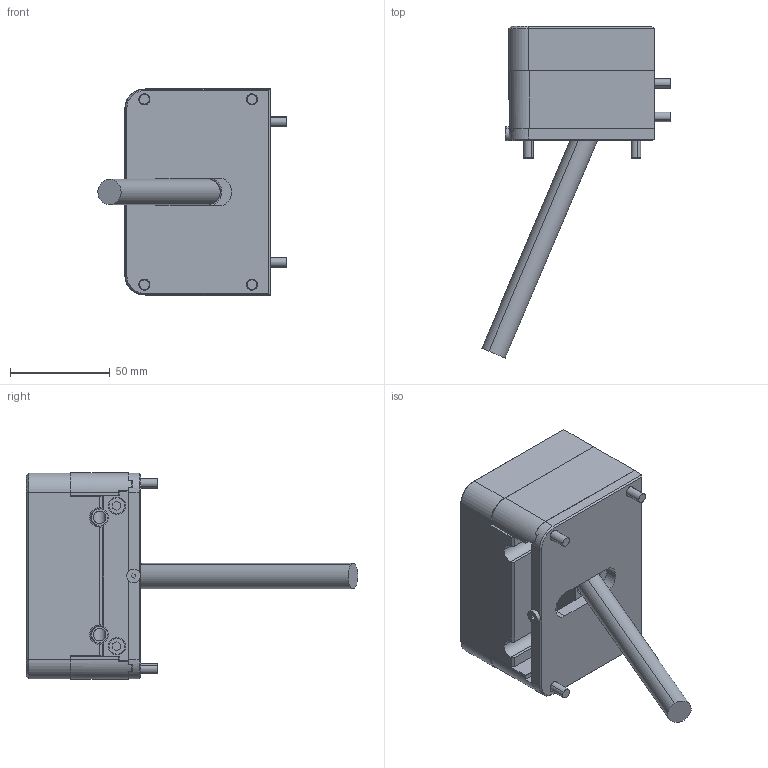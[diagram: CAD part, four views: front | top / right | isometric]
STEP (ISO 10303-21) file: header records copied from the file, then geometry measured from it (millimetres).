
FILE_DESCRIPTION (( 'STEP AP203' ), '1' );
FILE_NAME ('SL-40-50-HT.step', '2025-08-06T00:54:23', ( '' ), ( '' ), 'SwSTEP 2.0', 'SolidWorks 2023', '' );
FILE_SCHEMA (( 'CONFIG_CONTROL_DESIGN' ));
Length unit declared in the file: inch
Products named in the file (12): SL-40-50-HT; LHCS8-32L.25_LHCS8-32L.25; WPL-40102; BR06; GDG-30105R; GDG-30105L; SLD-40102; WDG-40102; SL-40102_WEDGE; SLK-8A-HT; SHCS10-32L1.50_SHCS10-32L1.50; CP-30
Assembly tree (18 placements, depth 3):
  SL-40-50-HT
    WPL-40102
    SLD-40102
    GDG-30105R
    GDG-30105L
    SLK-8A-HT
    SHCS10-32L1.50_SHCS10-32L1.50  x8
    LHCS8-32L.25_LHCS8-32L.25
    SL-40102_WEDGE
      WDG-40102
      CP-30
    BR06
Bounding box: 94.29 x 166.21 x 103.23 mm (x, y, z)
Volume: 390810.8 mm3; surface area: 102343.9 mm2
Topology: 18 solids, 18 shells, 612 faces, 1538 edges, 976 vertices
Faces by surface type: plane 333, cylinder 194, cone 81, bspline 4
Full cylindrical faces by diameter (mm): 2.184 x1, 2.185 x1, 6.35 x4, 6.351 x4, 6.375 x2, 7.938 x8
Entity records: 17466 total; most frequent: CARTESIAN_POINT 3296, DIRECTION 2724, ORIENTED_EDGE 2628, EDGE_CURVE 1314, AXIS2_PLACEMENT_3D 968, VERTEX_POINT 836, VECTOR 788, LINE 788
